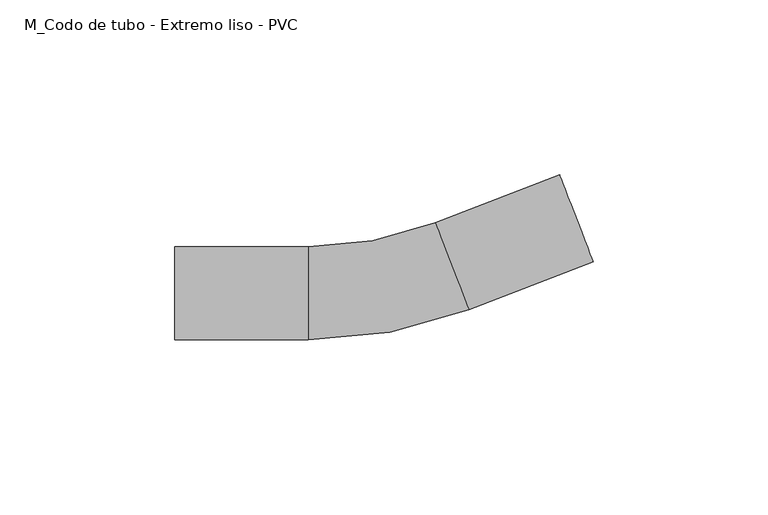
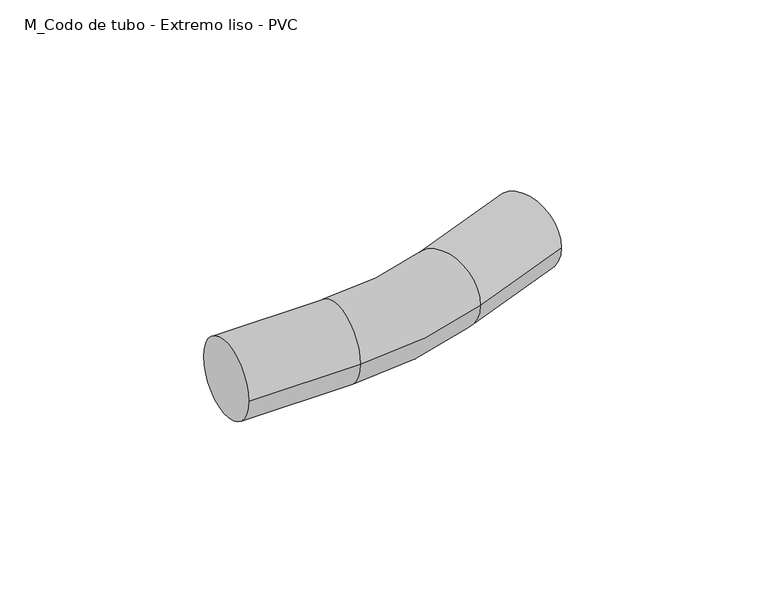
"""IFC4 building model written with IfcOpenShell, lengths in millimetres: cable carrier fitting geometry, M_Codo de tubo - Extremo liso - PVC : CODO ILUMINACION."""

from ifc_helpers import new_model, si_unit, point, frame, origin, place, context, project, spatial, circle_curve, ellipse_curve, trimmed, source, transform, mapped, element, save
from ifc_brep_helpers import plane_surface, cylinder_surface, revolved_surface, advanced_brep


def m_codo_de_tubo_extremo_liso_pvc_da9ca040(model_context):
    return source(origin(), model_context, "Body", "AdvancedBrep", [
        advanced_brep(
        [(-59.4169685, -13.335, 0.0), (-59.4169685, 13.335, 0.0), (-21.3169685, -13.335, 0.0), (-21.3169685, 13.335, 0.0), (15.0771381, 20.1225068, 0.0), (24.6906756, -4.7545669, 0.0), (60.2293523, 8.9790582, 0.0), (50.6158148, 33.8561319, 0.0)],
        [
            (0, 1, circle_curve(frame((-59.4169685, 0.0, 0.0), z_axis=(-1.0, 0.0, 0.0), x_axis=(0.0, 1.0, 0.0)), 13.335)),
            (1, 0, circle_curve(frame((-59.4169685, 0.0, 0.0), z_axis=(-1.0, 0.0, 0.0), x_axis=(0.0, 1.0, 0.0)), 13.335)),
            (0, 2),
            (2, 3, circle_curve(frame((-21.3169685, 0.0, 0.0), z_axis=(-1.0, 0.0, 0.0), x_axis=(0.0, 1.0, 0.0)), 13.335)),
            (3, 1),
            (3, 2, circle_curve(frame((-21.3169685, 0.0, 0.0), z_axis=(-1.0, 0.0, 0.0), x_axis=(0.0, 1.0, 0.0)), 13.335)),
            (4, 3, circle_curve(frame((-21.3169685, 114.3, 0.0), z_axis=(0.0, 0.0, -1.0), x_axis=(0.0, -1.0, 0.0)), 100.965)),
            (2, 5, circle_curve(frame((-21.3169685, 114.3, 0.0), z_axis=(0.0, 0.0, 1.0), x_axis=(0.0, -1.0, 0.0)), 127.635)),
            (5, 4, circle_curve(frame((19.8839069, 7.6839699, 0.0), z_axis=(-0.932773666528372, -0.36046260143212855, 0.0), x_axis=(-0.36046260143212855, 0.932773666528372, 0.0)), 13.335)),
            (4, 5, circle_curve(frame((19.8839069, 7.6839699, 0.0), z_axis=(-0.9327736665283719, -0.3604626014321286, 0.0), x_axis=(-0.3604626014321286, 0.9327736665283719, 0.0)), 13.335)),
            (6, 7, circle_curve(frame((55.4225836, 21.417595, 0.0), z_axis=(0.932773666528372, 0.3604626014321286, 0.0), x_axis=(-0.3604626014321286, 0.932773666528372, 0.0)), 13.335)),
            (7, 6, circle_curve(frame((55.4225836, 21.417595, 0.0), z_axis=(0.932773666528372, 0.3604626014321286, 0.0), x_axis=(-0.3604626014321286, 0.932773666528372, 0.0)), 13.335)),
            (5, 6),
            (7, 4),
        ],
        [
            plane_surface(frame((-59.4169685, 0.0, 0.0), z_axis=(-1.0, 0.0, 0.0), x_axis=(0.0, 0.0, 1.0))),
            cylinder_surface(frame((-59.4169685, 0.0, 0.0), z_axis=(-1.0, 0.0, 0.0), x_axis=(0.0, 1.0, 0.0)), 13.335),
            revolved_surface(trimmed(ellipse_curve(frame((-21.3169685, 0.0, 0.0), z_axis=(-1.0, 0.0, 0.0), x_axis=(0.0, 1.0, 0.0)), 13.335, 13.335), [point((-21.3169685, -13.335, 0.0))], [point((-21.3169685, 13.335, 0.0))], True, "CARTESIAN"), (-21.3169685, 114.3, 0.0), (0.0, 0.0, 1.0)),
            revolved_surface(trimmed(ellipse_curve(frame((-21.3169685, 0.0, 0.0), z_axis=(-1.0, 0.0, 0.0), x_axis=(0.0, 1.0, 0.0)), 13.335, 13.335), [point((-21.3169685, 13.335, 0.0))], [point((-21.3169685, -13.335, 0.0))], True, "CARTESIAN"), (-21.3169685, 114.3, 0.0), (0.0, 0.0, 1.0)),
            plane_surface(frame((55.4225836, 21.417595, 0.0), z_axis=(0.932773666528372, 0.3604626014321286, 0.0), x_axis=(0.0, 0.0, 1.0))),
            cylinder_surface(frame((19.8839069, 7.6839699, 0.0), z_axis=(-0.932773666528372, -0.3604626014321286, 0.0), x_axis=(-0.3604626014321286, 0.932773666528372, 0.0)), 13.335),
        ],
        [
            (0, [[1, 2]]),
            (1, [[-1, 3, 4, 5]]),
            (1, [[-2, -5, 6, -3]]),
            (2, [[7, -4, 8, 9]]),
            (3, [[-8, -6, -7, 10]]),
            (4, [[11, 12]]),
            (5, [[-9, 13, -12, 14]]),
            (5, [[-10, -14, -11, -13]]),
        ],
    ),
    ])


if __name__ == "__main__":
    model = new_model("IFC4")
    model_context = context("Model", 3, world=origin())
    ifc_project = project(units=[si_unit("LENGTHUNIT", "METRE", prefix="MILLI")], contexts=[model_context])
    site = spatial("IfcSite", under=ifc_project)
    building = spatial("IfcBuilding", under=site)
    placement = place(None, origin())
    m_codo_de_tubo_extremo_liso_pvc_shape = m_codo_de_tubo_extremo_liso_pvc_da9ca040(model_context)
    element("IfcCableCarrierFitting", 1, ObjectType="M_Codo de tubo - Extremo liso - PVC : CODO ILUMINACION", at=placement, inside=building, context=model_context, shape_type="MappedRepresentation", body=[
        mapped(m_codo_de_tubo_extremo_liso_pvc_shape, transform((0.0, 0.0, 0.0), x_axis=(1.0, 0.0, 0.0), y_axis=(0.0, 1.0, 0.0), z_axis=(0.0, 0.0, 1.0))),
    ])
    save(model, "model.ifc")
